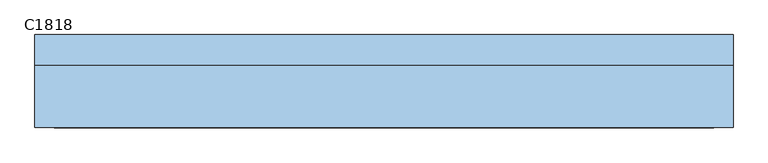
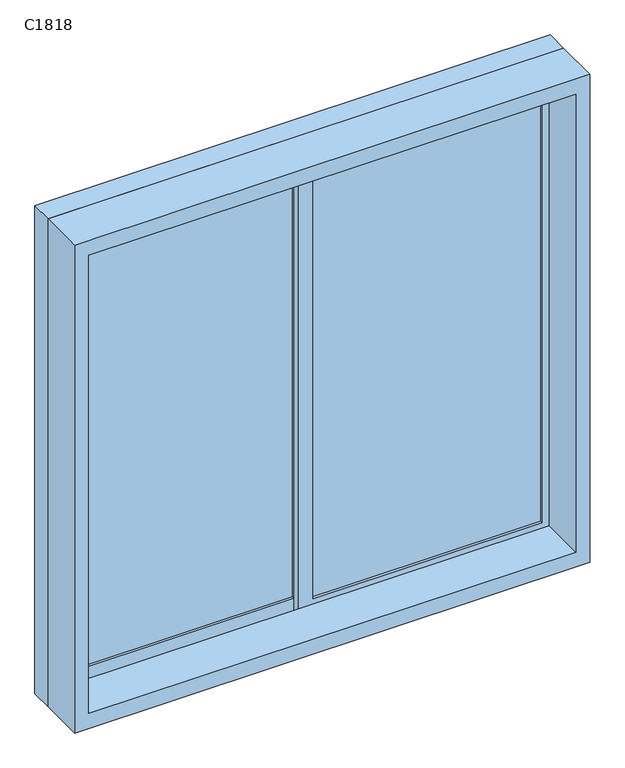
"""IFC4 building model written with IfcOpenShell, lengths in millimetres: window geometry, 推拉窗6 : C1818."""

from ifc_helpers import new_model, si_unit, frame, origin, place, context, project, spatial, polyline, outline, extrude, source, transform, mapped, element, save


def c1818_23193a84(model_context):
    return source(origin(), model_context, "Body", "SweptSolid", [
        extrude(outline(polyline([(-815.475, 23.1265625), (-15.475, 23.1265625), (-15.475, 13.1265625), (-815.475, 13.1265625), (-815.475, 23.1265625)])), frame((0.0, 0.0, 675.0), z_axis=(0.0, 0.0, 1.0), x_axis=(1.0, 0.0, 0.0)), (0.0, 0.0, 1.0), 1650.0),
        extrude(outline(polyline([(34.525, -6.8734375), (834.525, -6.8734375), (834.525, -16.8734375), (34.525, -16.8734375), (34.525, -6.8734375)])), frame((0.0, 0.0, 675.0), z_axis=(0.0, 0.0, 1.0), x_axis=(1.0, 0.0, 0.0)), (0.0, 0.0, 1.0), 1650.0),
        extrude(outline(polyline([(2400.0, -890.475), (600.0, -890.475), (600.0, 909.525), (2400.0, 909.525), (2400.0, -890.475)]), holes=[polyline([(2345.0, 859.525), (655.0, 859.525), (655.0, -840.475), (2345.0, -840.475), (2345.0, 859.525)])]), frame((0.0, -186.8734375, 0.0), z_axis=(0.0, 1.0, 0.0), x_axis=(0.0, 0.0, 1.0)), (0.0, 0.0, 1.0), 160.0),
        extrude(outline(polyline([(625.0, 34.525), (2375.0, 34.525), (2375.0, -865.475), (625.0, -865.475), (625.0, 34.525)]), holes=[polyline([(675.0, -15.475), (675.0, -815.475), (2325.0, -815.475), (2325.0, -15.475), (675.0, -15.475)])]), frame((0.0, 3.1265625, 0.0), z_axis=(0.0, 1.0, 0.0), x_axis=(0.0, 0.0, 1.0)), (0.0, 0.0, 1.0), 30.0),
        extrude(outline(polyline([(2375.0, -15.475), (625.0, -15.475), (625.0, 884.525), (2375.0, 884.525), (2375.0, -15.475)]), holes=[polyline([(2325.0, 34.525), (2325.0, 834.525), (675.0, 834.525), (675.0, 34.525), (2325.0, 34.525)])]), frame((0.0, -26.8734375, 0.0), z_axis=(0.0, 1.0, 0.0), x_axis=(0.0, 0.0, 1.0)), (0.0, 0.0, 1.0), 30.0),
        extrude(outline(polyline([(2400.0, -890.475), (600.0, -890.475), (600.0, 909.525), (2400.0, 909.525), (2400.0, -890.475)]), holes=[polyline([(625.0, -865.475), (2375.0, -865.475), (2375.0, 884.525), (625.0, 884.525), (625.0, -865.475)])]), frame((0.0, -26.8734375, 0.0), z_axis=(0.0, 1.0, 0.0), x_axis=(0.0, 0.0, 1.0)), (0.0, 0.0, 1.0), 80.0),
    ])


if __name__ == "__main__":
    model = new_model("IFC4")
    model_context = context("Model", 3, world=origin())
    ifc_project = project(units=[si_unit("LENGTHUNIT", "METRE", prefix="MILLI")], contexts=[model_context])
    site = spatial("IfcSite", under=ifc_project)
    building = spatial("IfcBuilding", under=site)
    placement = place(None, origin())
    c1818_shape = c1818_23193a84(model_context)
    element("IfcWindow", 1, ObjectType="推拉窗6 : C1818", at=placement, inside=building, context=model_context, shape_type="MappedRepresentation", body=[
        mapped(c1818_shape, transform((0.0, 0.0, 0.0), x_axis=(1.0, 0.0, 0.0), y_axis=(0.0, 1.0, 0.0), z_axis=(0.0, 0.0, 1.0))),
    ])
    save(model, "model.ifc")
